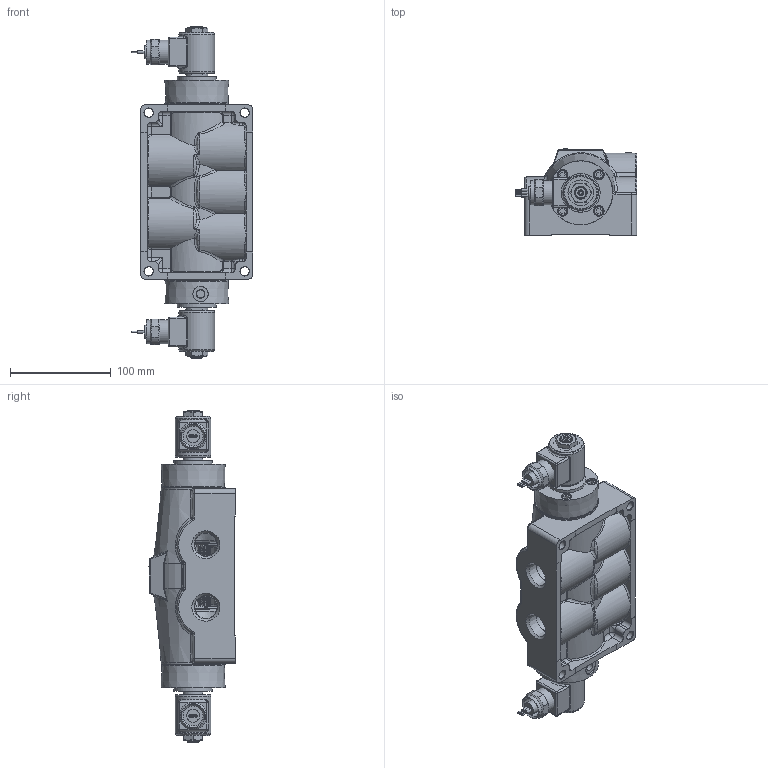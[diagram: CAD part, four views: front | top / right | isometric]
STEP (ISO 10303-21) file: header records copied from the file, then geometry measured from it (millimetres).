
FILE_DESCRIPTION(/* description */ (''),/* implementation_level */ '2;1');
FILE_NAME(/* name */ 'D:\Website Files\stp\Valves\Classic\SY\SY6MZ.stp',/* time_stamp */ '2016-03-12T23:47:41-05:00',/* author */ ('RMcKenna'),/* organization */ (''),/* preprocessor_version */ 'ST-DEVELOPER v15.6',/* originating_system */ 'Autodesk Inventor 2015',/* authorisation */ '');
FILE_SCHEMA (('AUTOMOTIVE_DESIGN { 1 0 10303 214 3 1 1 }'));
Products named in the file (1): Part36
Bounding box: 120.56 x 86.28 x 329.41 mm (x, y, z)
Volume: 1187850.9 mm3; surface area: 235319.3 mm2
Topology: 4 solids, 28 shells, 2197 faces, 5106 edges, 3079 vertices
Faces by surface type: plane 743, cylinder 505, cone 366, bspline 310, torus 182, sphere 91
Full cylindrical faces by diameter (mm): 1.346 x6, 2.07 x1, 2.261 x2, 2.381 x2, 2.718 x4, 2.778 x2, 3.048 x2, 3.175 x5, 3.962 x4, 4.978 x9, 6.35 x8, 7.144 x8, 8.712 x4, 9.144 x2, 9.462 x2, 9.525 x8, 11.43 x2, 11.836 x4, 12.598 x2, 12.7 x4, 13.106 x2, 13.462 x2, 13.494 x2, 14.986 x2, 15.081 x3, 16.51 x2, 17.323 x1, 17.475 x2, 18.796 x2, 19.05 x2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
Entity records: 86025 total; most frequent: CARTESIAN_POINT 38269, ORIENTED_EDGE 9268, DIRECTION 9093, EDGE_CURVE 4630, AXIS2_PLACEMENT_3D 3723, VERTEX_POINT 2971, EDGE_LOOP 2741, FACE_OUTER_BOUND 2195
